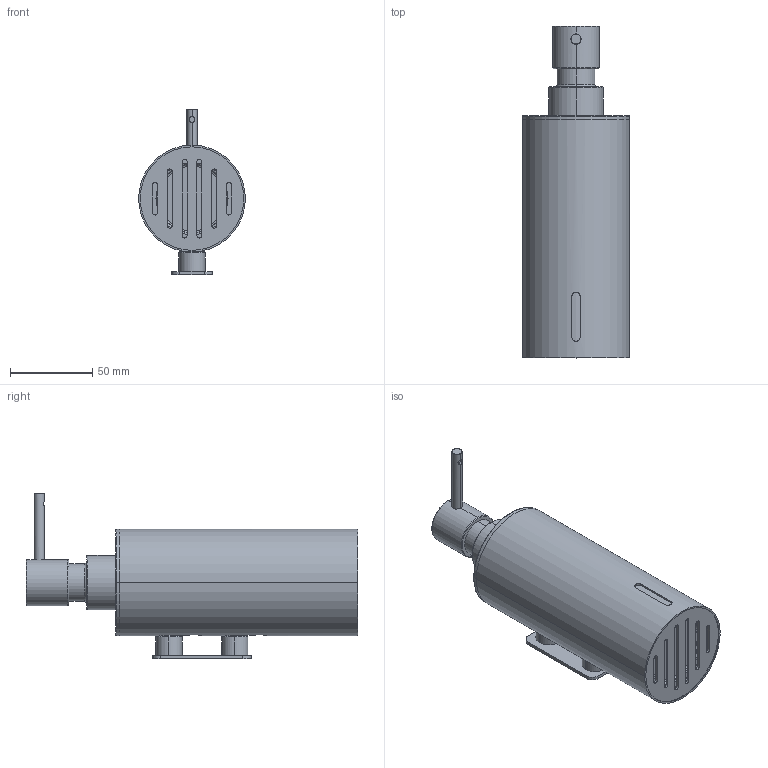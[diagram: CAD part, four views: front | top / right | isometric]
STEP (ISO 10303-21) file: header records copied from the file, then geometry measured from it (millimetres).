
FILE_DESCRIPTION((''),'2;1');
FILE_NAME('20230729-0001_ASM','2023-10-03T11:27:26',('Administrator'),(''),'CREO PARAMETRIC BY PTC INC, 2019471','CREO PARAMETRIC BY PTC INC, 2019471','');
FILE_SCHEMA(('CONFIG_CONTROL_DESIGN'));
Length unit declared in the file: millimetre
Products named in the file (8): 20230516-01A; 20230516-07A; 20221031-012; 20221031-06; 20211127-5709; 20230211-02; 1018000; 20230729-0001_ASM
Assembly tree (9 placements, depth 2):
  20230729-0001_ASM
    20230516-01A
    20230516-07A
    20221031-012
    20221031-06
    20211127-5709  x2
    20230211-02
    1018000  x2
Bounding box: 65 x 202 x 101 mm (x, y, z)
Volume: 383813.9 mm3; surface area: 119675.8 mm2
Topology: 9 solids, 11 shells, 334 faces, 818 edges, 522 vertices
Faces by surface type: cylinder 174, plane 62, cone 38, torus 30, bspline 30
Entity records: 13973 total; most frequent: CARTESIAN_POINT 8021, ORIENTED_EDGE 1198, DIRECTION 1192, EDGE_CURVE 601, AXIS2_PLACEMENT_3D 479, VERTEX_POINT 383, EDGE_LOOP 294, FACE_OUTER_BOUND 250
